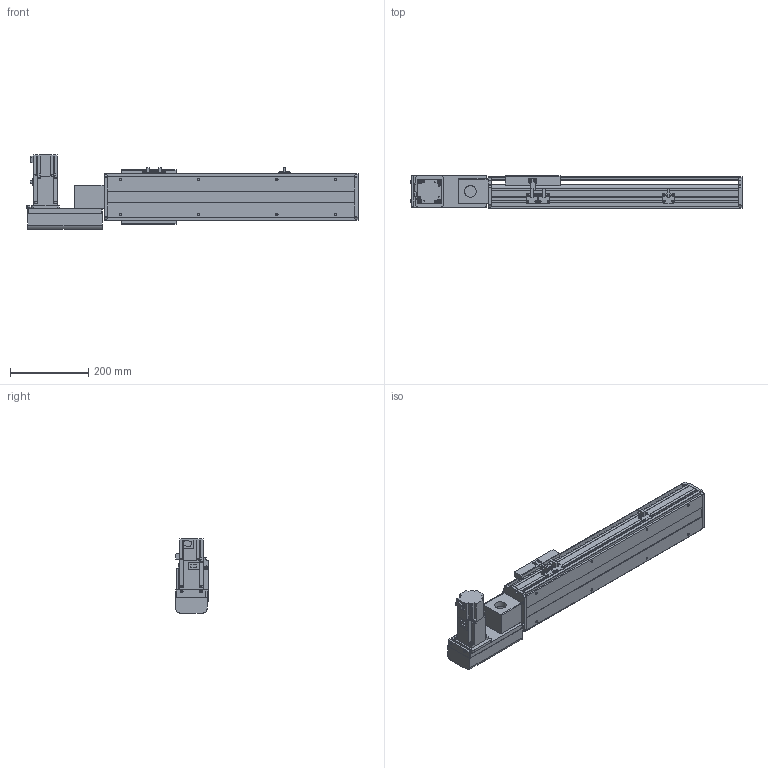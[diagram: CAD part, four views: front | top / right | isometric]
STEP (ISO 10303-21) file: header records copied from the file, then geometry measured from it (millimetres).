
FILE_DESCRIPTION(/* description */ ('STEP AP214'),/* implementation_level */ '2;1');
FILE_NAME(/* name */ 'PBS120-P40-S350-L-T40-C1-N(0)',/* time_stamp */ '2022-06-05T02:24:12+02:00',/* author */ ('License CC BY-ND 4.0'),/* organization */ ('CADENAS'),/* preprocessor_version */ 'ST-DEVELOPER v18.102',/* originating_system */ 'PARTsolutions',/* authorisation */ ' ');
FILE_SCHEMA (('AUTOMOTIVE_DESIGN {1 0 10303 214 3 1 1}'));
Length unit declared in the file: millimetre
Products named in the file (7): PBS120-P40-S350-L-T40-C1-N(0); PBS120_sensor; PBS120_plant; PBS120_sliser; T40-p1; PBS120T-L_motors; PBS120-S350()_body
Assembly tree (8 placements, depth 2):
  PBS120-P40-S350-L-T40-C1-N(0)
    PBS120_sensor  x3
    PBS120_plant
    PBS120_sliser
    T40-p1
    PBS120T-L_motors
    PBS120-S350()_body
Bounding box: 851 x 83 x 189.7 mm (x, y, z)
Volume: 3845577.6 mm3; surface area: 696931.9 mm2
Topology: 8 solids, 8 shells, 804 faces, 2116 edges, 1363 vertices
Faces by surface type: plane 541, cylinder 221, cone 40, torus 2
Full cylindrical faces by diameter (mm): 2.459 x6, 3.242 x4, 4 x2, 4.134 x4, 4.5 x10, 4.917 x12, 5.5 x11, 6 x2, 6.6 x1, 7 x2, 8.5 x4, 9 x4, 12 x1, 14 x1, 30 x2, 40 x1, 50 x2
Entity records: 21114 total; most frequent: DIRECTION 3644, CARTESIAN_POINT 3605, ORIENTED_EDGE 3454, EDGE_CURVE 1727, LINE 1228, VECTOR 1228, AXIS2_PLACEMENT_3D 1208, VERTEX_POINT 1169
